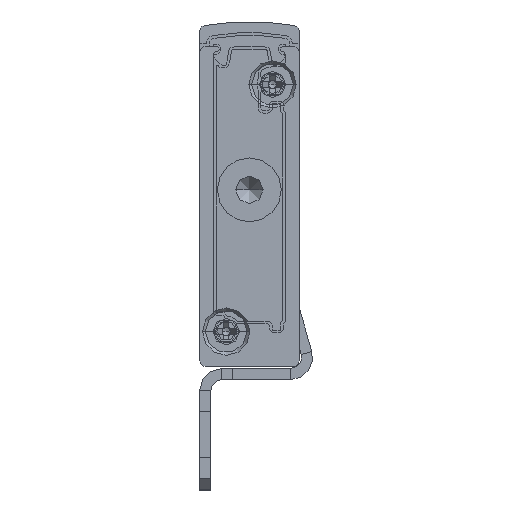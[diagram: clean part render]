
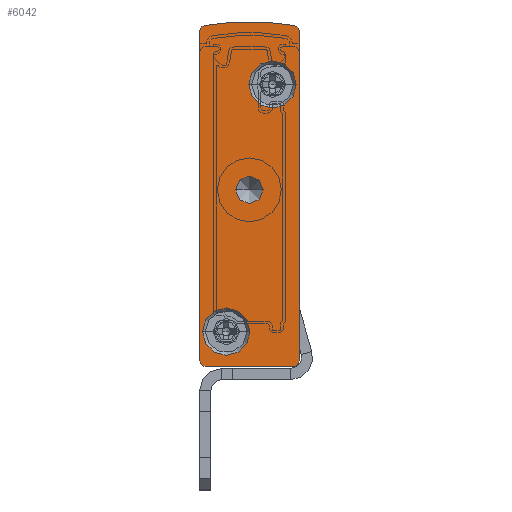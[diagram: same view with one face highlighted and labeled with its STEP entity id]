
A CAD part, front view. The second image highlights one B-rep face of the part: STEP entity #6042.
In plain terms, the highlighted planar face has unit normal (0, -1, 0).
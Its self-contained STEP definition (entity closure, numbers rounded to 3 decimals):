
#57 = CARTESIAN_POINT ( 'NONE',  ( -4.5, -2.5, 7.592 ) ) ;
#287 = EDGE_CURVE ( 'NONE', #14583, #35915, #3274, .T. ) ;
#293 = DIRECTION ( 'NONE',  ( 0., 1., 0. ) ) ;
#400 = DIRECTION ( 'NONE',  ( -1., 0., 0. ) ) ;
#980 = VERTEX_POINT ( 'NONE', #10515 ) ;
#1125 = DIRECTION ( 'NONE',  ( 1., 0., 0. ) ) ;
#1200 = ORIENTED_EDGE ( 'NONE', *, *, #8223, .F. ) ;
#1309 = CARTESIAN_POINT ( 'NONE',  ( -0.25, -2.5, 25.55 ) ) ;
#1491 = AXIS2_PLACEMENT_3D ( 'NONE', #57, #15137, #11683 ) ;
#1551 = AXIS2_PLACEMENT_3D ( 'NONE', #6181, #36908, #400 ) ;
#2575 = ORIENTED_EDGE ( 'NONE', *, *, #11864, .T. ) ;
#2606 = CARTESIAN_POINT ( 'NONE',  ( -0.5, -2.5, 0.5 ) ) ;
#2824 = CARTESIAN_POINT ( 'NONE',  ( 0., -2.5, 0.5 ) ) ;
#2950 = ORIENTED_EDGE ( 'NONE', *, *, #15233, .F. ) ;
#3134 = CARTESIAN_POINT ( 'NONE',  ( -0.5, -2.5, 30.402 ) ) ;
#3154 = VERTEX_POINT ( 'NONE', #4792 ) ;
#3274 = CIRCLE ( 'NONE', #37131, 0.5 ) ;
#3617 = VERTEX_POINT ( 'NONE', #24071 ) ;
#3723 = EDGE_CURVE ( 'NONE', #31469, #16003, #10792, .T. ) ;
#4792 = CARTESIAN_POINT ( 'NONE',  ( -4.55, -2.5, 25.55 ) ) ;
#4800 = DIRECTION ( 'NONE',  ( 1., 0., 0. ) ) ;
#5138 = CIRCLE ( 'NONE', #21714, 1.25 ) ;
#5938 = DIRECTION ( 'NONE',  ( -1., 0., 0. ) ) ;
#5949 = FACE_BOUND ( 'NONE', #30029, .T. ) ;
#6042 = ADVANCED_FACE ( 'NONE', ( #36431, #14987, #36914, #5949 ), #18247, .F. ) ;
#6106 = CARTESIAN_POINT ( 'NONE',  ( -8.75, -2.5, 3.15 ) ) ;
#6181 = CARTESIAN_POINT ( 'NONE',  ( -8.5, -2.5, 30.402 ) ) ;
#6275 = DIRECTION ( 'NONE',  ( 0., 1., 0. ) ) ;
#7546 = EDGE_LOOP ( 'NONE', ( #37008, #10333 ) ) ;
#8049 = VERTEX_POINT ( 'NONE', #31825 ) ;
#8183 = EDGE_CURVE ( 'NONE', #980, #31469, #27946, .T. ) ;
#8223 = EDGE_CURVE ( 'NONE', #22266, #8049, #35598, .T. ) ;
#8387 = ORIENTED_EDGE ( 'NONE', *, *, #12872, .T. ) ;
#8537 = CARTESIAN_POINT ( 'NONE',  ( -9., -2.5, 30.402 ) ) ;
#8793 = EDGE_LOOP ( 'NONE', ( #18692, #17489, #20449, #13991, #1200, #35887, #32601, #14423 ) ) ;
#8991 = DIRECTION ( 'NONE',  ( -1., 0., 0. ) ) ;
#9130 = AXIS2_PLACEMENT_3D ( 'NONE', #10065, #28858, #1125 ) ;
#9225 = CARTESIAN_POINT ( 'NONE',  ( -4.5, -2.5, 16. ) ) ;
#9807 = DIRECTION ( 'NONE',  ( -1., 0., 0. ) ) ;
#9973 = VERTEX_POINT ( 'NONE', #37072 ) ;
#10065 = CARTESIAN_POINT ( 'NONE',  ( -2.4, -2.5, 25.55 ) ) ;
#10129 = VERTEX_POINT ( 'NONE', #25466 ) ;
#10333 = ORIENTED_EDGE ( 'NONE', *, *, #27209, .F. ) ;
#10515 = CARTESIAN_POINT ( 'NONE',  ( -8.592, -2.5, 30.893 ) ) ;
#10637 = EDGE_CURVE ( 'NONE', #31599, #980, #28911, .T. ) ;
#10792 = CIRCLE ( 'NONE', #37141, 0.5 ) ;
#11683 = DIRECTION ( 'NONE',  ( -1., 0., 0. ) ) ;
#11859 = CARTESIAN_POINT ( 'NONE',  ( -9., -2.5, 30.402 ) ) ;
#11864 = EDGE_CURVE ( 'NONE', #3617, #9973, #36850, .T. ) ;
#12872 = EDGE_CURVE ( 'NONE', #9973, #3617, #5138, .T. ) ;
#13264 = AXIS2_PLACEMENT_3D ( 'NONE', #29445, #14216, #29030 ) ;
#13305 = CARTESIAN_POINT ( 'NONE',  ( -8.5, -2.5, 0. ) ) ;
#13315 = DIRECTION ( 'NONE',  ( 1., 0., 0. ) ) ;
#13991 = ORIENTED_EDGE ( 'NONE', *, *, #38396, .F. ) ;
#14216 = DIRECTION ( 'NONE',  ( 0., -1., 0. ) ) ;
#14423 = ORIENTED_EDGE ( 'NONE', *, *, #8183, .F. ) ;
#14583 = VERTEX_POINT ( 'NONE', #13305 ) ;
#14987 = FACE_BOUND ( 'NONE', #7546, .T. ) ;
#15005 = DIRECTION ( 'NONE',  ( 0., 1., 0. ) ) ;
#15137 = DIRECTION ( 'NONE',  ( 0., 1., 0. ) ) ;
#15233 = EDGE_CURVE ( 'NONE', #28494, #3154, #33368, .T. ) ;
#15278 = VECTOR ( 'NONE', #23600, 1000. ) ;
#15783 = DIRECTION ( 'NONE',  ( 0., 0., -1. ) ) ;
#16003 = VERTEX_POINT ( 'NONE', #19954 ) ;
#17287 = DIRECTION ( 'NONE',  ( 0., -1., 0. ) ) ;
#17489 = ORIENTED_EDGE ( 'NONE', *, *, #28096, .F. ) ;
#18247 = PLANE ( 'NONE',  #1551 ) ;
#18692 = ORIENTED_EDGE ( 'NONE', *, *, #10637, .F. ) ;
#18913 = CARTESIAN_POINT ( 'NONE',  ( -6.6, -2.5, 3.15 ) ) ;
#19239 = DIRECTION ( 'NONE',  ( -1., 0., 0. ) ) ;
#19954 = CARTESIAN_POINT ( 'NONE',  ( 0., -2.5, 30.402 ) ) ;
#20449 = ORIENTED_EDGE ( 'NONE', *, *, #287, .F. ) ;
#20661 = CIRCLE ( 'NONE', #39447, 2.15 ) ;
#21714 = AXIS2_PLACEMENT_3D ( 'NONE', #9225, #6275, #8991 ) ;
#21903 = VECTOR ( 'NONE', #23814, 1000. ) ;
#22266 = VERTEX_POINT ( 'NONE', #2824 ) ;
#22300 = DIRECTION ( 'NONE',  ( 0., 1., 0. ) ) ;
#23231 = CIRCLE ( 'NONE', #24678, 2.15 ) ;
#23349 = LINE ( 'NONE', #11859, #21903 ) ;
#23600 = DIRECTION ( 'NONE',  ( -1., 0., 0. ) ) ;
#23726 = CARTESIAN_POINT ( 'NONE',  ( -8.5, -2.5, 0. ) ) ;
#23814 = DIRECTION ( 'NONE',  ( 0., 0., 1. ) ) ;
#24071 = CARTESIAN_POINT ( 'NONE',  ( -3.25, -2.5, 16. ) ) ;
#24106 = CIRCLE ( 'NONE', #13264, 2.15 ) ;
#24446 = DIRECTION ( 'NONE',  ( -1., 0., 0. ) ) ;
#24678 = AXIS2_PLACEMENT_3D ( 'NONE', #18913, #37565, #13315 ) ;
#25466 = CARTESIAN_POINT ( 'NONE',  ( -4.45, -2.5, 3.15 ) ) ;
#26323 = CARTESIAN_POINT ( 'NONE',  ( -9., -2.5, 0.5 ) ) ;
#26434 = EDGE_LOOP ( 'NONE', ( #2950, #34253 ) ) ;
#27209 = EDGE_CURVE ( 'NONE', #31758, #10129, #20661, .T. ) ;
#27396 = DIRECTION ( 'NONE',  ( -1., 0., 0. ) ) ;
#27946 = CIRCLE ( 'NONE', #1491, 23.658 ) ;
#28096 = EDGE_CURVE ( 'NONE', #35915, #31599, #23349, .T. ) ;
#28479 = AXIS2_PLACEMENT_3D ( 'NONE', #34304, #31261, #9807 ) ;
#28494 = VERTEX_POINT ( 'NONE', #1309 ) ;
#28858 = DIRECTION ( 'NONE',  ( 0., -1., 0. ) ) ;
#28911 = CIRCLE ( 'NONE', #32476, 0.5 ) ;
#29030 = DIRECTION ( 'NONE',  ( 1., 0., 0. ) ) ;
#29209 = EDGE_CURVE ( 'NONE', #3154, #28494, #24106, .T. ) ;
#29445 = CARTESIAN_POINT ( 'NONE',  ( -2.4, -2.5, 25.55 ) ) ;
#30029 = EDGE_LOOP ( 'NONE', ( #8387, #2575 ) ) ;
#30132 = AXIS2_PLACEMENT_3D ( 'NONE', #2606, #15005, #27396 ) ;
#30627 = DIRECTION ( 'NONE',  ( 0., 1., 0. ) ) ;
#31208 = VECTOR ( 'NONE', #15783, 1000. ) ;
#31261 = DIRECTION ( 'NONE',  ( 0., 1., 0. ) ) ;
#31469 = VERTEX_POINT ( 'NONE', #35443 ) ;
#31599 = VERTEX_POINT ( 'NONE', #8537 ) ;
#31758 = VERTEX_POINT ( 'NONE', #6106 ) ;
#31792 = CARTESIAN_POINT ( 'NONE',  ( -8.5, -2.5, 30.402 ) ) ;
#31825 = CARTESIAN_POINT ( 'NONE',  ( -0.5, -2.5, 0. ) ) ;
#32476 = AXIS2_PLACEMENT_3D ( 'NONE', #31792, #22300, #19239 ) ;
#32601 = ORIENTED_EDGE ( 'NONE', *, *, #3723, .F. ) ;
#33368 = CIRCLE ( 'NONE', #9130, 2.15 ) ;
#33499 = CARTESIAN_POINT ( 'NONE',  ( 0., -2.5, 30.402 ) ) ;
#34253 = ORIENTED_EDGE ( 'NONE', *, *, #29209, .F. ) ;
#34304 = CARTESIAN_POINT ( 'NONE',  ( -4.5, -2.5, 16. ) ) ;
#34547 = EDGE_CURVE ( 'NONE', #10129, #31758, #23231, .T. ) ;
#35443 = CARTESIAN_POINT ( 'NONE',  ( -0.408, -2.5, 30.893 ) ) ;
#35556 = CARTESIAN_POINT ( 'NONE',  ( -6.6, -2.5, 3.15 ) ) ;
#35598 = CIRCLE ( 'NONE', #30132, 0.5 ) ;
#35887 = ORIENTED_EDGE ( 'NONE', *, *, #37223, .F. ) ;
#35915 = VERTEX_POINT ( 'NONE', #26323 ) ;
#36431 = FACE_BOUND ( 'NONE', #26434, .T. ) ;
#36558 = CARTESIAN_POINT ( 'NONE',  ( -8.5, -2.5, 0.5 ) ) ;
#36850 = CIRCLE ( 'NONE', #28479, 1.25 ) ;
#36908 = DIRECTION ( 'NONE',  ( 0., 1., 0. ) ) ;
#36914 = FACE_OUTER_BOUND ( 'NONE', #8793, .T. ) ;
#37008 = ORIENTED_EDGE ( 'NONE', *, *, #34547, .F. ) ;
#37072 = CARTESIAN_POINT ( 'NONE',  ( -5.75, -2.5, 16. ) ) ;
#37131 = AXIS2_PLACEMENT_3D ( 'NONE', #36558, #293, #5938 ) ;
#37141 = AXIS2_PLACEMENT_3D ( 'NONE', #3134, #30627, #24446 ) ;
#37223 = EDGE_CURVE ( 'NONE', #16003, #22266, #39272, .T. ) ;
#37565 = DIRECTION ( 'NONE',  ( 0., -1., 0. ) ) ;
#37669 = LINE ( 'NONE', #23726, #15278 ) ;
#38396 = EDGE_CURVE ( 'NONE', #8049, #14583, #37669, .T. ) ;
#39272 = LINE ( 'NONE', #33499, #31208 ) ;
#39447 = AXIS2_PLACEMENT_3D ( 'NONE', #35556, #17287, #4800 ) ;
